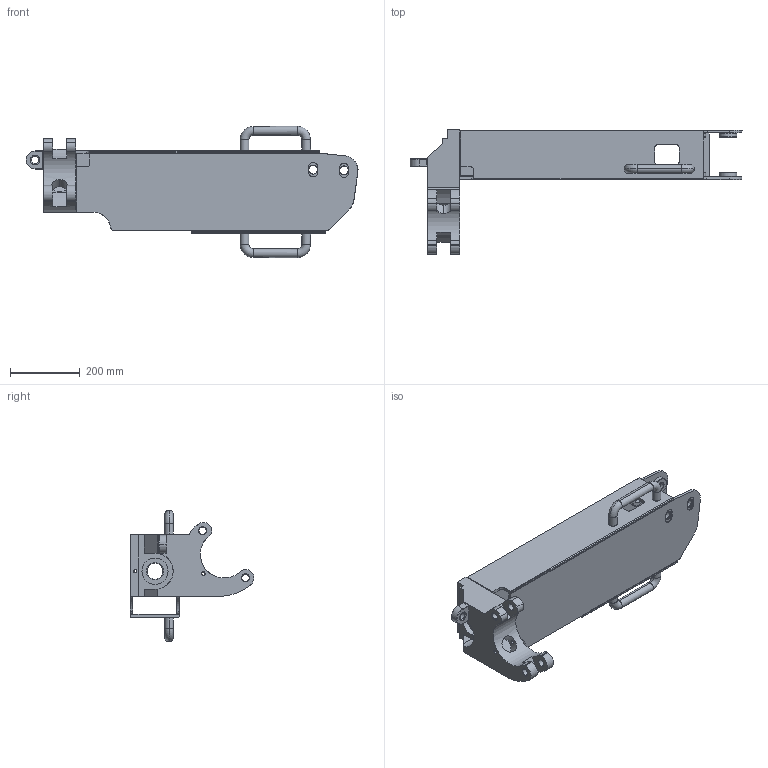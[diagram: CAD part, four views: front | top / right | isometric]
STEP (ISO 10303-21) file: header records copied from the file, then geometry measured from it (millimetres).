
FILE_DESCRIPTION (( 'STEP AP203' ), '1' );
FILE_NAME ('YYDK-500-0033 楹蛌盓殤(500T).STEP', '2026-04-21T08:03:39', ( 'Windows 蚚誧' ), ( '' ), 'SwSTEP 2.0', 'SolidWorks 2020', '' );
FILE_SCHEMA (( 'CONFIG_CONTROL_DESIGN' ));
Length unit declared in the file: millimetre
Products named in the file (10): YYDK-500-0033-5 支架侧板3（500T）; YYDK-500-0033-4 支架侧板2（500T）; YYDK-500-0033-1-A 支架连接块（500T）右侧; YYDK-500-0033-6 支架侧板4（500T）; YYDK-500-0033-8 支架加强筋（500T）; YYDK-500-0033 楹蛌盓殤(500T); YYDK-500-0033-2 支架吊环（500T）; YYDK-500-0033-9 結輸; YYDK-500-0033-7 支架把手（500T）; YYDK-500-0033-3 支架侧板1（500T）
Assembly tree (13 placements, depth 2):
  YYDK-500-0033 楹蛌盓殤(500T)
    YYDK-500-0033-1-A 支架连接块（500T）右侧
    YYDK-500-0033-2 支架吊环（500T）
    YYDK-500-0033-3 支架侧板1（500T）
    YYDK-500-0033-4 支架侧板2（500T）
    YYDK-500-0033-5 支架侧板3（500T）
    YYDK-500-0033-6 支架侧板4（500T）
    YYDK-500-0033-7 支架把手（500T）  x2
    YYDK-500-0033-8 支架加强筋（500T）
    YYDK-500-0033-9 結輸  x4
Bounding box: 953.31 x 355.96 x 377.02 mm (x, y, z)
Volume: 7375704 mm3; surface area: 1312041.8 mm2
Topology: 13 solids, 13 shells, 325 faces, 791 edges, 499 vertices
Faces by surface type: plane 135, cylinder 117, cone 53, torus 16, bspline 4
Entity records: 9880 total; most frequent: CARTESIAN_POINT 2101, DIRECTION 1420, ORIENTED_EDGE 1354, EDGE_CURVE 677, AXIS2_PLACEMENT_3D 502, VERTEX_POINT 435, VECTOR 416, LINE 416
